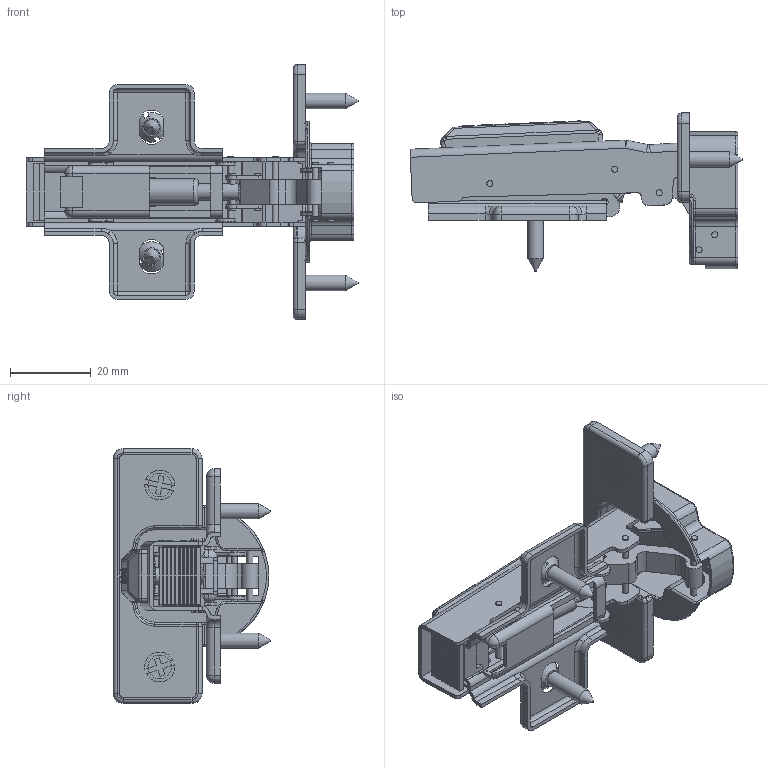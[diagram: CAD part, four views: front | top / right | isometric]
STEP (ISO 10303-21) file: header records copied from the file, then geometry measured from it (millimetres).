
FILE_DESCRIPTION(/* description */ (''),/* implementation_level */ '2;1');
FILE_NAME(/* name */ 'W:\R&D\pub\Katalog techniczny\bryły 3D\ZM-ECHC09BEO.stp',/* time_stamp */ '2016-09-13T13:21:16+02:00',/* author */ ('tomaszw'),/* organization */ (''),/* preprocessor_version */ 'ST-DEVELOPER v16.1',/* originating_system */ 'Autodesk Inventor 2016',/* authorisation */ '');
FILE_SCHEMA (('AUTOMOTIVE_DESIGN { 1 0 10303 214 3 1 1 }'));
Length unit declared in the file: millimetre
Products named in the file (17): ZM-ECHC0-P-H0; ZM-ECHC0_2; ZM-ECHC09; ZM-ECHC0_1; ZM-ECHC0_4-FI35_45_w; ZM-ECHC0_Pin2; ZM-ECHC0_Pin1; Wkret4x6; ZM-ECHC0_5; ZM-ECHC0_6; ZM-ECHC0_7; ZM-ECHC0_8_9; ZM-ECHC0_3_9; ZM-ECHC0-NP; ZM-ECHC0-NR; Wkret4x16; ZM-ECHC07(8)(9)ZEO(BEO)(48-ZE)(2ZE)(ZED)
Assembly tree (23 placements, depth 2):
  ZM-ECHC07(8)(9)ZEO(BEO)(48-ZE)(2ZE)(ZED)
    ZM-ECHC0-P-H0
    ZM-ECHC0_2
    ZM-ECHC09
    ZM-ECHC0_1
    ZM-ECHC0_4-FI35_45_w
    ZM-ECHC0_Pin2  x4
    ZM-ECHC0_Pin1  x2
    Wkret4x6
    ZM-ECHC0_5
    ZM-ECHC0_6
    ZM-ECHC0_7
    ZM-ECHC0_8_9
    ZM-ECHC0_3_9
    ZM-ECHC0-NP
    ZM-ECHC0-NR
    Wkret4x16  x4
Bounding box: 82.09 x 39 x 63 mm (x, y, z)
Volume: 12786.9 mm3; surface area: 29090.3 mm2
Topology: 23 solids, 23 shells, 1421 faces, 3563 edges, 2207 vertices
Faces by surface type: plane 611, cylinder 455, bspline 181, torus 92, sphere 54, cone 28
Full cylindrical faces by diameter (mm): 1.5 x34, 3.8 x4, 4 x2, 5 x1, 6 x1, 6.5 x2, 7 x1, 8 x1
Entity records: 45394 total; most frequent: CARTESIAN_POINT 11912, ORIENTED_EDGE 6692, DIRECTION 6450, EDGE_CURVE 3346, AXIS2_PLACEMENT_3D 2248, VERTEX_POINT 2098, LINE 1954, VECTOR 1954
